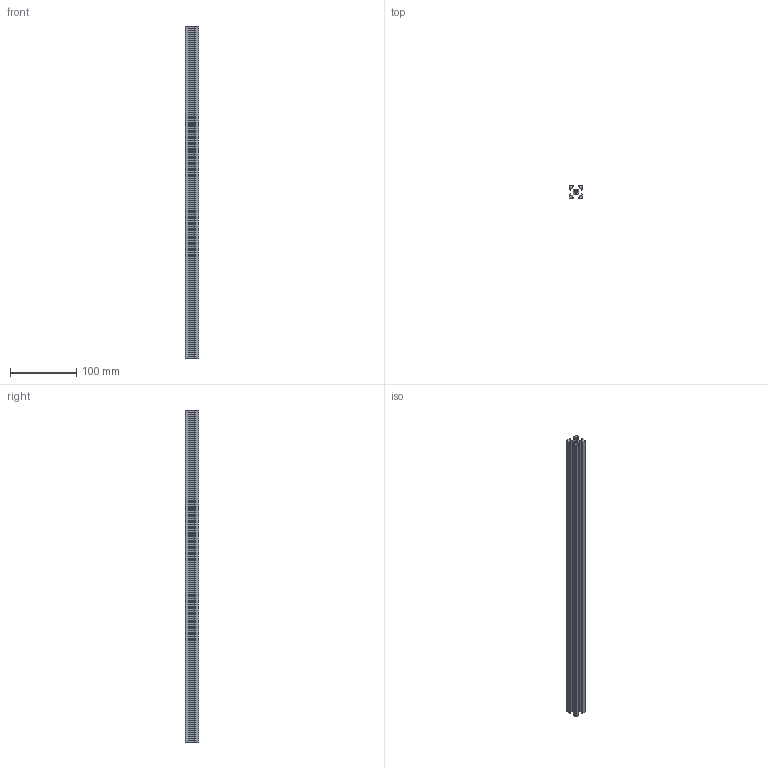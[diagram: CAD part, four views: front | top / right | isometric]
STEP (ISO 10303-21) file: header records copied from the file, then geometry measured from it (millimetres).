
FILE_DESCRIPTION (( 'STEP AP214' ), '1' );
FILE_NAME ('t-v-slot–20x20mm.STEP', '2024-07-10T00:19:42', ( '' ), ( '' ), 'SwSTEP 2.0', 'SolidWorks 2024', '' );
FILE_SCHEMA (( 'AUTOMOTIVE_DESIGN' ));
Length unit declared in the file: millimetre
Products named in the file (1): t-v-slot–20x20mm
Bounding box: 20 x 20 x 500 mm (x, y, z)
Volume: 85716.2 mm3; surface area: 80471.7 mm2
Topology: 1 solids, 1 shells, 82 faces, 246 edges, 166 vertices
Faces by surface type: plane 58, cylinder 24
Entity records: 2793 total; most frequent: CARTESIAN_POINT 495, ORIENTED_EDGE 492, DIRECTION 460, EDGE_CURVE 246, LINE 198, VECTOR 198, VERTEX_POINT 166, AXIS2_PLACEMENT_3D 131
